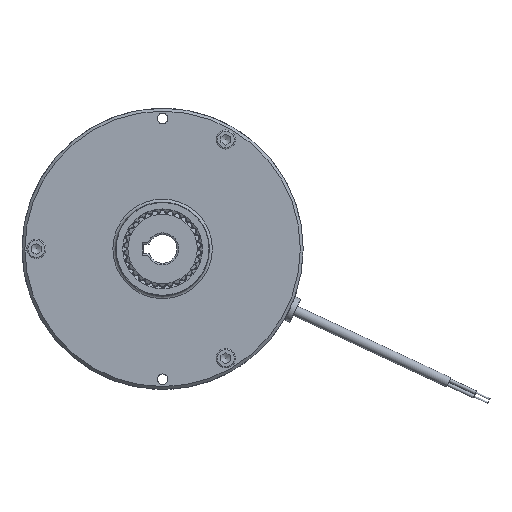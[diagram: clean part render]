
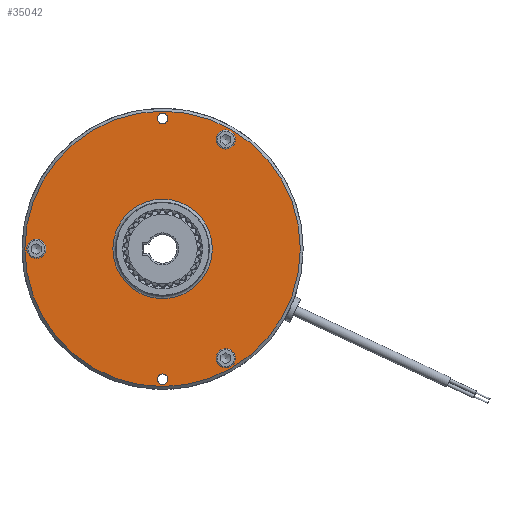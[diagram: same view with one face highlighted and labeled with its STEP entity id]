
A CAD part, left-side view. The second image highlights one B-rep face of the part: STEP entity #35042.
In plain terms, the highlighted planar face has unit normal (-1, 0, 0).
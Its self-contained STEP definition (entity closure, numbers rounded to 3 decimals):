
#425=FACE_BOUND('',#4355,.T.);
#426=FACE_BOUND('',#4356,.T.);
#427=FACE_BOUND('',#4357,.T.);
#428=FACE_BOUND('',#4358,.T.);
#429=FACE_BOUND('',#4359,.T.);
#430=FACE_BOUND('',#4360,.T.);
#1039=PLANE('',#38554);
#2674=FACE_OUTER_BOUND('',#4354,.T.);
#4354=EDGE_LOOP('',(#30819));
#4355=EDGE_LOOP('',(#30820,#30821));
#4356=EDGE_LOOP('',(#30822,#30823));
#4357=EDGE_LOOP('',(#30824,#30825));
#4358=EDGE_LOOP('',(#30826,#30827));
#4359=EDGE_LOOP('',(#30828,#30829));
#4360=EDGE_LOOP('',(#30830));
#11295=CIRCLE('',#38232,5.);
#11296=CIRCLE('',#38233,5.);
#11309=CIRCLE('',#38260,5.);
#11310=CIRCLE('',#38261,5.);
#11323=CIRCLE('',#38288,5.);
#11324=CIRCLE('',#38289,5.);
#11458=CIRCLE('',#38545,2.75);
#11459=CIRCLE('',#38546,2.75);
#11461=CIRCLE('',#38549,2.75);
#11462=CIRCLE('',#38550,2.75);
#11464=CIRCLE('',#38553,72.);
#11465=CIRCLE('',#38555,26.);
#14700=VERTEX_POINT('',#64576);
#14701=VERTEX_POINT('',#64577);
#14727=VERTEX_POINT('',#64668);
#14728=VERTEX_POINT('',#64669);
#14754=VERTEX_POINT('',#64760);
#14755=VERTEX_POINT('',#64761);
#14976=VERTEX_POINT('',#65823);
#14977=VERTEX_POINT('',#65824);
#14979=VERTEX_POINT('',#65831);
#14980=VERTEX_POINT('',#65832);
#14982=VERTEX_POINT('',#65839);
#14983=VERTEX_POINT('',#65843);
#19861=EDGE_CURVE('',#14700,#14701,#11295,.T.);
#19862=EDGE_CURVE('',#14701,#14700,#11296,.T.);
#19898=EDGE_CURVE('',#14727,#14728,#11309,.T.);
#19899=EDGE_CURVE('',#14728,#14727,#11310,.T.);
#19935=EDGE_CURVE('',#14754,#14755,#11323,.T.);
#19936=EDGE_CURVE('',#14755,#14754,#11324,.T.);
#20261=EDGE_CURVE('',#14976,#14977,#11458,.T.);
#20262=EDGE_CURVE('',#14977,#14976,#11459,.T.);
#20265=EDGE_CURVE('',#14979,#14980,#11461,.T.);
#20266=EDGE_CURVE('',#14980,#14979,#11462,.T.);
#20270=EDGE_CURVE('',#14982,#14982,#11464,.T.);
#20271=EDGE_CURVE('',#14983,#14983,#11465,.T.);
#30819=ORIENTED_EDGE('',*,*,#20270,.F.);
#30820=ORIENTED_EDGE('',*,*,#19861,.T.);
#30821=ORIENTED_EDGE('',*,*,#19862,.T.);
#30822=ORIENTED_EDGE('',*,*,#19898,.T.);
#30823=ORIENTED_EDGE('',*,*,#19899,.T.);
#30824=ORIENTED_EDGE('',*,*,#19935,.T.);
#30825=ORIENTED_EDGE('',*,*,#19936,.T.);
#30826=ORIENTED_EDGE('',*,*,#20261,.T.);
#30827=ORIENTED_EDGE('',*,*,#20262,.T.);
#30828=ORIENTED_EDGE('',*,*,#20265,.T.);
#30829=ORIENTED_EDGE('',*,*,#20266,.T.);
#30830=ORIENTED_EDGE('',*,*,#20271,.T.);
#35042=ADVANCED_FACE('',(#2674,#425,#426,#427,#428,#429,#430),#1039,.T.);
#38232=AXIS2_PLACEMENT_3D('',#64578,#46759,#46760);
#38233=AXIS2_PLACEMENT_3D('',#64579,#46761,#46762);
#38260=AXIS2_PLACEMENT_3D('',#64670,#46831,#46832);
#38261=AXIS2_PLACEMENT_3D('',#64671,#46833,#46834);
#38288=AXIS2_PLACEMENT_3D('',#64762,#46903,#46904);
#38289=AXIS2_PLACEMENT_3D('',#64763,#46905,#46906);
#38545=AXIS2_PLACEMENT_3D('',#65825,#47553,#47554);
#38546=AXIS2_PLACEMENT_3D('',#65826,#47555,#47556);
#38549=AXIS2_PLACEMENT_3D('',#65833,#47562,#47563);
#38550=AXIS2_PLACEMENT_3D('',#65834,#47564,#47565);
#38553=AXIS2_PLACEMENT_3D('',#65841,#47572,#47573);
#38554=AXIS2_PLACEMENT_3D('',#65842,#47574,#47575);
#38555=AXIS2_PLACEMENT_3D('',#65844,#47576,#47577);
#46759=DIRECTION('center_axis',(1.,0.,0.));
#46760=DIRECTION('ref_axis',(0.,-1.,0.));
#46761=DIRECTION('center_axis',(1.,0.,0.));
#46762=DIRECTION('ref_axis',(0.,-1.,0.));
#46831=DIRECTION('center_axis',(1.,0.,0.));
#46832=DIRECTION('ref_axis',(0.,-1.,0.));
#46833=DIRECTION('center_axis',(1.,0.,0.));
#46834=DIRECTION('ref_axis',(0.,-1.,0.));
#46903=DIRECTION('center_axis',(1.,0.,0.));
#46904=DIRECTION('ref_axis',(0.,-1.,0.));
#46905=DIRECTION('center_axis',(1.,0.,0.));
#46906=DIRECTION('ref_axis',(0.,-1.,0.));
#47553=DIRECTION('center_axis',(1.,0.,0.));
#47554=DIRECTION('ref_axis',(0.,0.,
1.));
#47555=DIRECTION('center_axis',(1.,0.,0.));
#47556=DIRECTION('ref_axis',(0.,0.,
1.));
#47562=DIRECTION('center_axis',(1.,0.,0.));
#47563=DIRECTION('ref_axis',(0.,0.,
1.));
#47564=DIRECTION('center_axis',(1.,0.,0.));
#47565=DIRECTION('ref_axis',(0.,0.,
1.));
#47572=DIRECTION('center_axis',(1.,0.,0.));
#47573=DIRECTION('ref_axis',(0.,-1.,0.));
#47574=DIRECTION('center_axis',(-1.,0.,0.));
#47575=DIRECTION('ref_axis',(0.,0.,
1.));
#47576=DIRECTION('center_axis',(1.,0.,0.));
#47577=DIRECTION('ref_axis',(0.,0.,
1.));
#64576=CARTESIAN_POINT('',(-23.5,-38.,57.158));
#64577=CARTESIAN_POINT('',(-23.5,-28.,57.158));
#64578=CARTESIAN_POINT('Origin',(-23.5,-33.,57.158));
#64579=CARTESIAN_POINT('Origin',(-23.5,-33.,57.158));
#64668=CARTESIAN_POINT('',(-23.5,61.,0.));
#64669=CARTESIAN_POINT('',(-23.5,71.,0.));
#64670=CARTESIAN_POINT('Origin',(-23.5,66.,0.));
#64671=CARTESIAN_POINT('Origin',(-23.5,66.,0.));
#64760=CARTESIAN_POINT('',(-23.5,-38.,-57.158));
#64761=CARTESIAN_POINT('',(-23.5,-28.,-57.158));
#64762=CARTESIAN_POINT('Origin',(-23.5,-33.,-57.158));
#64763=CARTESIAN_POINT('Origin',(-23.5,-33.,-57.158));
#65823=CARTESIAN_POINT('',(-23.5,0.,-65.4));
#65824=CARTESIAN_POINT('',(-23.5,0.,-70.9));
#65825=CARTESIAN_POINT('Origin',(-23.5,0.,-68.15));
#65826=CARTESIAN_POINT('Origin',(-23.5,0.,-68.15));
#65831=CARTESIAN_POINT('',(-23.5,0.,70.9));
#65832=CARTESIAN_POINT('',(-23.5,0.,65.4));
#65833=CARTESIAN_POINT('Origin',(-23.5,0.,68.15));
#65834=CARTESIAN_POINT('Origin',(-23.5,0.,68.15));
#65839=CARTESIAN_POINT('',(-23.5,72.,0.));
#65841=CARTESIAN_POINT('Origin',(-23.5,0.,0.));
#65842=CARTESIAN_POINT('Origin',(-23.5,36.75,0.));
#65843=CARTESIAN_POINT('',(-23.5,0.,-26.));
#65844=CARTESIAN_POINT('Origin',(-23.5,0.,0.));
